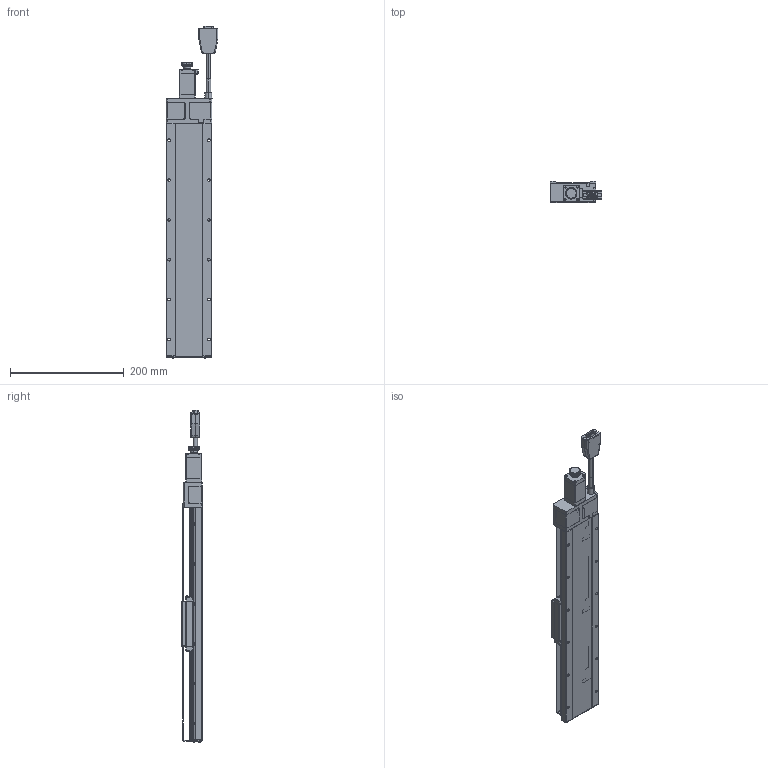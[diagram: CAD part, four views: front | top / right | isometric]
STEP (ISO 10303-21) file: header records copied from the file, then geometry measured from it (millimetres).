
FILE_DESCRIPTION (( 'STEP AP203' ), '1' );
FILE_NAME ('CXC80300-S2?N.STEP', '2023-09-28T09:03:06', ( '' ), ( '' ), 'SwSTEP 2.0', 'SolidWorks 2019', '' );
FILE_SCHEMA (( 'CONFIG_CONTROL_DESIGN' ));
Products named in the file (4): Group5^CXC80300-S2?N_GMT; CXC80300-S2?N; Group4^CXC80300-S2?N_GMT; CXN80-1_GMT
Assembly tree (3 placements, depth 2):
  CXC80300-S2?N
    Group4^CXC80300-S2?N_GMT
    Group5^CXC80300-S2?N_GMT
    CXN80-1_GMT
Bounding box: 90.5 x 37 x 583.25 mm (x, y, z)
Volume: 71987.3 mm3; surface area: 255967.3 mm2
Topology: 22 solids, 25 shells, 4567 faces, 11861 edges, 7375 vertices
Faces by surface type: plane 1844, cylinder 1272, cone 486, torus 412, bspline 403, sphere 150
Entity records: 159463 total; most frequent: CARTESIAN_POINT 49498, ORIENTED_EDGE 23446, DIRECTION 22529, EDGE_CURVE 11723, AXIS2_PLACEMENT_3D 8330, VERTEX_POINT 7367, VECTOR 5869, LINE 5869
